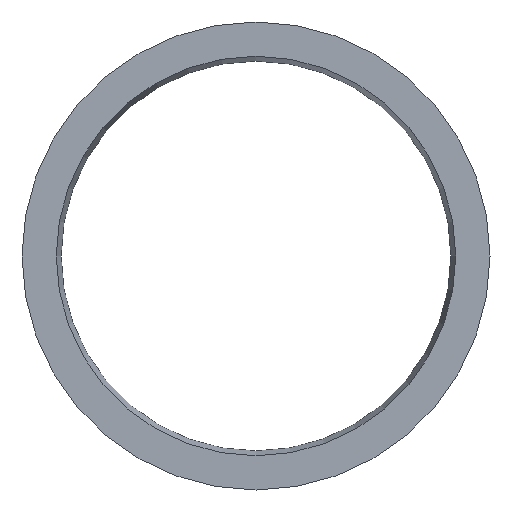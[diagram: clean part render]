
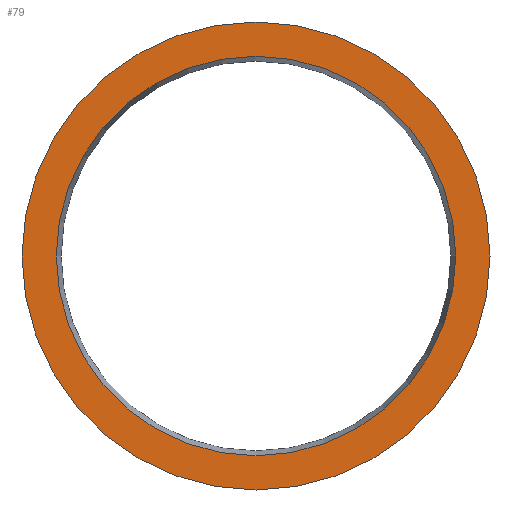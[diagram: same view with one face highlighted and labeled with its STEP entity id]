
A CAD part, front view. The second image highlights one B-rep face of the part: STEP entity #79.
In plain terms, the highlighted planar face has unit normal (0, -1, 0).
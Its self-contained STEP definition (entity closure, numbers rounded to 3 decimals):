
#79 = ADVANCED_FACE( '', ( #94, #95 ), #96, .T. );
#94 = FACE_OUTER_BOUND( '', #112, .T. );
#95 = FACE_BOUND( '', #113, .T. );
#96 = PLANE( '', #114 );
#112 = EDGE_LOOP( '', ( #138 ) );
#113 = EDGE_LOOP( '', ( #139 ) );
#114 = AXIS2_PLACEMENT_3D( '', #140, #141, #142 );
#138 = ORIENTED_EDGE( '', *, *, #153, .T. );
#139 = ORIENTED_EDGE( '', *, *, #152, .F. );
#140 = CARTESIAN_POINT( '', ( 14., 0., 0. ) );
#141 = DIRECTION( '', ( 0., -1., 0. ) );
#142 = DIRECTION( '', ( 0., 0., -1. ) );
#152 = EDGE_CURVE( '', #162, #162, #163, .T. );
#153 = EDGE_CURVE( '', #164, #164, #165, .T. );
#162 = VERTEX_POINT( '', #174 );
#163 = CIRCLE( '', #175, 14. );
#164 = VERTEX_POINT( '', #176 );
#165 = CIRCLE( '', #177, 16.4 );
#174 = CARTESIAN_POINT( '', ( 0., 0., -14. ) );
#175 = AXIS2_PLACEMENT_3D( '', #190, #191, #192 );
#176 = CARTESIAN_POINT( '', ( 0., 0., -16.4 ) );
#177 = AXIS2_PLACEMENT_3D( '', #193, #194, #195 );
#190 = CARTESIAN_POINT( '', ( 0., 0., 0. ) );
#191 = DIRECTION( '', ( 0., -1., 0. ) );
#192 = DIRECTION( '', ( 0., 0., -1. ) );
#193 = CARTESIAN_POINT( '', ( 0., 0., 0. ) );
#194 = DIRECTION( '', ( 0., -1., 0. ) );
#195 = DIRECTION( '', ( 0., 0., -1. ) );
